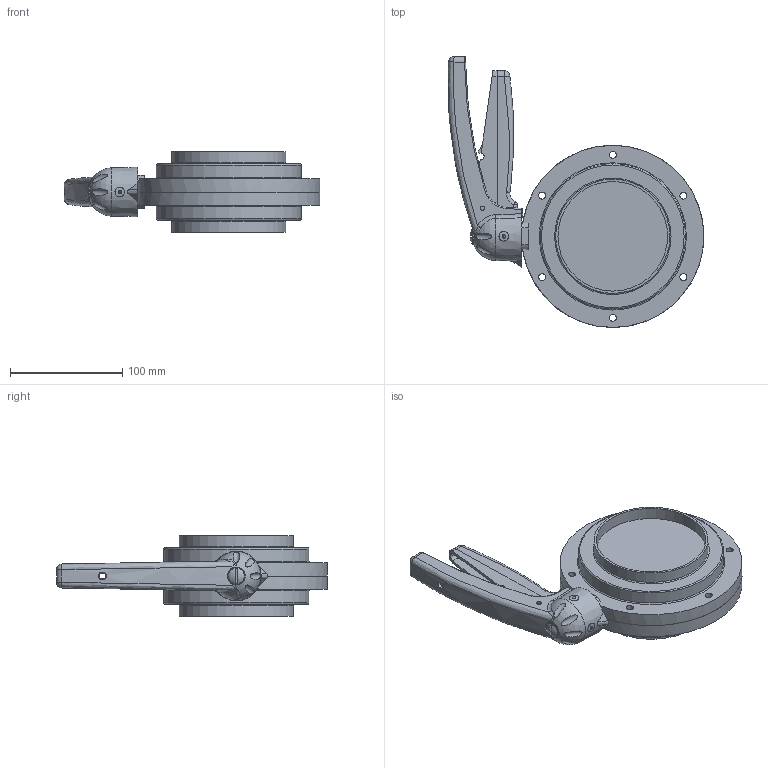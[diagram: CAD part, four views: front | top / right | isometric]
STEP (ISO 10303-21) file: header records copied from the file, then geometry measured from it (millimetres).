
FILE_DESCRIPTION(/* description */ ('VVF VALV.FARF.DN101.6 S/S EPDM 316 LEVA 5POS.'),/* implementation_level */ '2;1');
FILE_NAME(/* name */ 'C:\_DED_PWS\GIOR-G\DB\B\EBA\BEBAAL400BEAA-00^SAGOMA.step',/* time_stamp */ '2020-09-10T09:41:16+02:00',/* author */ (''),/* organization */ (''),/* preprocessor_version */ 'ST-DEVELOPER v18',/* originating_system */ 'Autodesk Inventor 2020',/* authorisation */ '');
FILE_SCHEMA (('CONFIG_CONTROL_DESIGN'));
Length unit declared in the file: millimetre
Products named in the file (3): BEBAAL400BEAA; MEZZO-COR-DN101.6-SALD; Maniglia-5-posizioni-nuova-versione finale 01-2008- 25 - - 65
Assembly tree (3 placements, depth 2):
  BEBAAL400BEAA
    MEZZO-COR-DN101.6-SALD  x2
    Maniglia-5-posizioni-nuova-versione finale 01-2008- 25 - - 65
Bounding box: 227.46 x 241 x 72 mm (x, y, z)
Volume: 949736.9 mm3; surface area: 176181 mm2
Topology: 3 solids, 4 shells, 446 faces, 1197 edges, 776 vertices
Faces by surface type: plane 198, cylinder 106, bspline 81, cone 28, sphere 18, torus 15
Full cylindrical faces by diameter (mm): 4 x3, 6 x2, 6.2 x12, 6.5 x1, 10 x2, 13 x1, 14.5 x1, 97.6 x2, 101.6 x2, 129 x2, 162 x2
Entity records: 22638 total; most frequent: CARTESIAN_POINT 12062, ORIENTED_EDGE 2264, DIRECTION 1926, EDGE_CURVE 1132, VERTEX_POINT 729, AXIS2_PLACEMENT_3D 696, LINE 534, VECTOR 534
